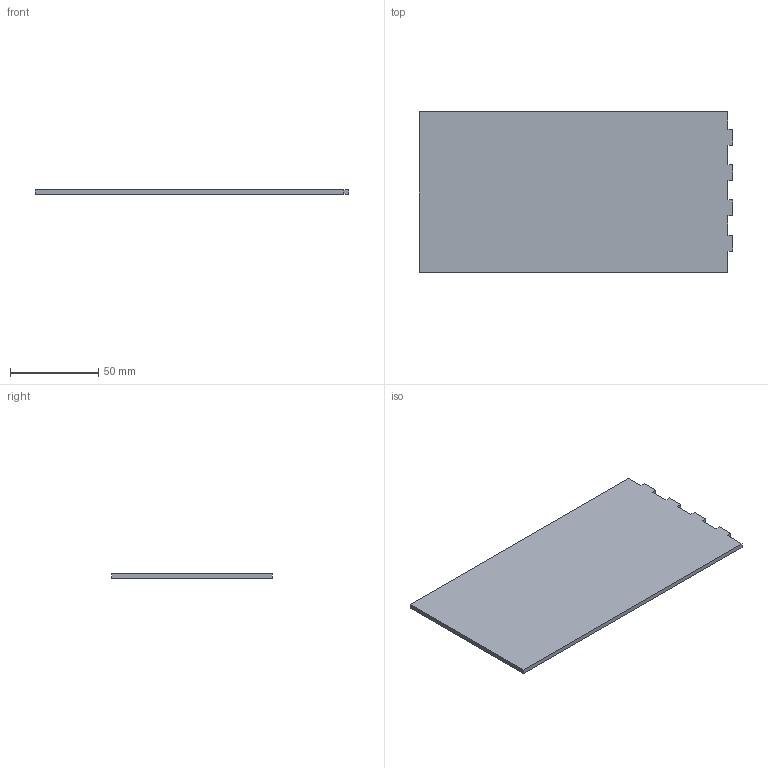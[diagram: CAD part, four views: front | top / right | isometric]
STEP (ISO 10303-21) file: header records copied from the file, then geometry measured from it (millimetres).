
FILE_DESCRIPTION (( 'STEP AP214' ), '1' );
FILE_NAME ('topminibox.STEP', '2025-06-15T00:38:27', ( '' ), ( '' ), 'SwSTEP 2.0', 'SolidWorks 2024', '' );
FILE_SCHEMA (( 'AUTOMOTIVE_DESIGN' ));
Length unit declared in the file: millimetre
Products named in the file (1): topminibox
Bounding box: 177.8 x 91 x 2.5 mm (x, y, z)
Volume: 40064.5 mm3; surface area: 33437.6 mm2
Topology: 1 solids, 1 shells, 22 faces, 60 edges, 40 vertices
Faces by surface type: plane 22
Entity records: 707 total; most frequent: CARTESIAN_POINT 123, ORIENTED_EDGE 120, DIRECTION 106, EDGE_CURVE 60, VECTOR 60, LINE 60, VERTEX_POINT 40, AXIS2_PLACEMENT_3D 23
